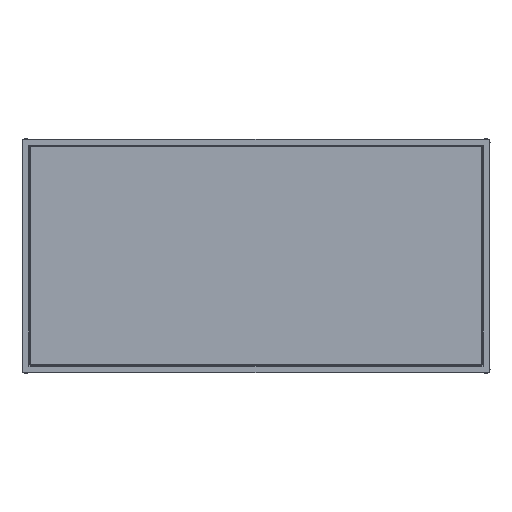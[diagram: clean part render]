
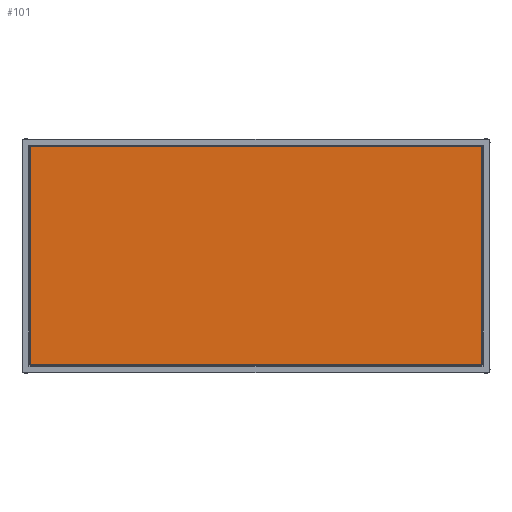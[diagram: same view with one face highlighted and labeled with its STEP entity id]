
A CAD part, top view. The second image highlights one B-rep face of the part: STEP entity #101.
In plain terms, the highlighted planar face has unit normal (0, 0, 1).
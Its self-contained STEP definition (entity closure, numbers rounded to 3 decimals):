
#101=ADVANCED_FACE('',(#208),#1393,.T.);
#208=FACE_OUTER_BOUND('',#315,.T.);
#315=EDGE_LOOP('',(#443,#444,#445,#446));
#443=ORIENTED_EDGE('',*,*,#869,.T.);
#444=ORIENTED_EDGE('',*,*,#872,.T.);
#445=ORIENTED_EDGE('',*,*,#870,.T.);
#446=ORIENTED_EDGE('',*,*,#871,.T.);
#869=EDGE_CURVE('',#1263,#1264,#1082,.T.);
#870=EDGE_CURVE('',#1265,#1266,#1083,.T.);
#871=EDGE_CURVE('',#1266,#1263,#1084,.T.);
#872=EDGE_CURVE('',#1264,#1265,#1085,.T.);
#1082=B_SPLINE_CURVE_WITH_KNOTS('',1,(#1720,#1721),.UNSPECIFIED.,.F.,.F.,
(2,2),(2.,564.),.UNSPECIFIED.);
#1083=B_SPLINE_CURVE_WITH_KNOTS('',1,(#1722,#1723),.UNSPECIFIED.,.F.,.F.,
(2,2),(2.,564.),.UNSPECIFIED.);
#1084=B_SPLINE_CURVE_WITH_KNOTS('',1,(#1724,#1725),.UNSPECIFIED.,.F.,.F.,
(2,2),(2.,1164.),.UNSPECIFIED.);
#1085=B_SPLINE_CURVE_WITH_KNOTS('',1,(#1726,#1727),.UNSPECIFIED.,.F.,.F.,
(2,2),(2.,1164.),.UNSPECIFIED.);
#1263=VERTEX_POINT('',#1676);
#1264=VERTEX_POINT('',#1677);
#1265=VERTEX_POINT('',#1678);
#1266=VERTEX_POINT('',#1679);
#1393=PLANE('',#1477);
#1477=AXIS2_PLACEMENT_3D('',#1611,#1544,$);
#1544=DIRECTION('',(0.,0.,1.));
#1611=CARTESIAN_POINT('',(-283.,-283.,400.));
#1676=CARTESIAN_POINT('',(-281.,281.,400.));
#1677=CARTESIAN_POINT('',(-281.,-281.,400.));
#1678=CARTESIAN_POINT('',(881.,-281.,400.));
#1679=CARTESIAN_POINT('',(881.,281.,400.));
#1720=CARTESIAN_POINT('',(-281.,281.,400.));
#1721=CARTESIAN_POINT('',(-281.,-281.,400.));
#1722=CARTESIAN_POINT('',(881.,-281.,400.));
#1723=CARTESIAN_POINT('',(881.,281.,400.));
#1724=CARTESIAN_POINT('',(881.,281.,400.));
#1725=CARTESIAN_POINT('',(-281.,281.,400.));
#1726=CARTESIAN_POINT('',(-281.,-281.,400.));
#1727=CARTESIAN_POINT('',(881.,-281.,400.));
